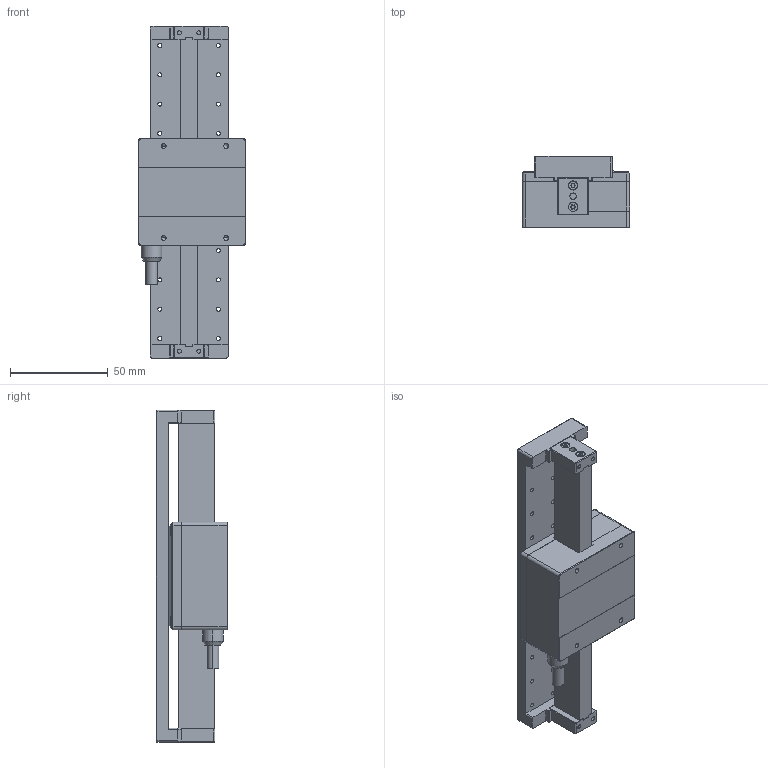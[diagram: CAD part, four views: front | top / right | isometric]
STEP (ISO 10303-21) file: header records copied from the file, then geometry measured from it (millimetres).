
FILE_DESCRIPTION (( 'STEP AP214' ), '1' );
FILE_NAME ('N31.50E-B1揤萇眻盄萇儂.STEP', '2023-04-08T00:53:04', ( 'Sky123.Org' ), ( 'Sky123.Org' ), 'SwSTEP 2.0', 'SolidWorks 2016', '' );
FILE_SCHEMA (( 'AUTOMOTIVE_DESIGN' ));
Length unit declared in the file: millimetre
Products named in the file (1): N31.50E-B1揤萇眻盄萇儂
Bounding box: 55 x 36.5 x 170 mm (x, y, z)
Volume: 151017.3 mm3; surface area: 55939.1 mm2
Topology: 19 solids, 19 shells, 745 faces, 1860 edges, 1165 vertices
Faces by surface type: cylinder 372, plane 261, cone 100, torus 8, bspline 4
Entity records: 30943 total; most frequent: DIRECTION 4104, CARTESIAN_POINT 4103, ORIENTED_EDGE 3660, EDGE_CURVE 1830, AXIS2_PLACEMENT_3D 1568, VERTEX_POINT 1165, LINE 968, VECTOR 968
